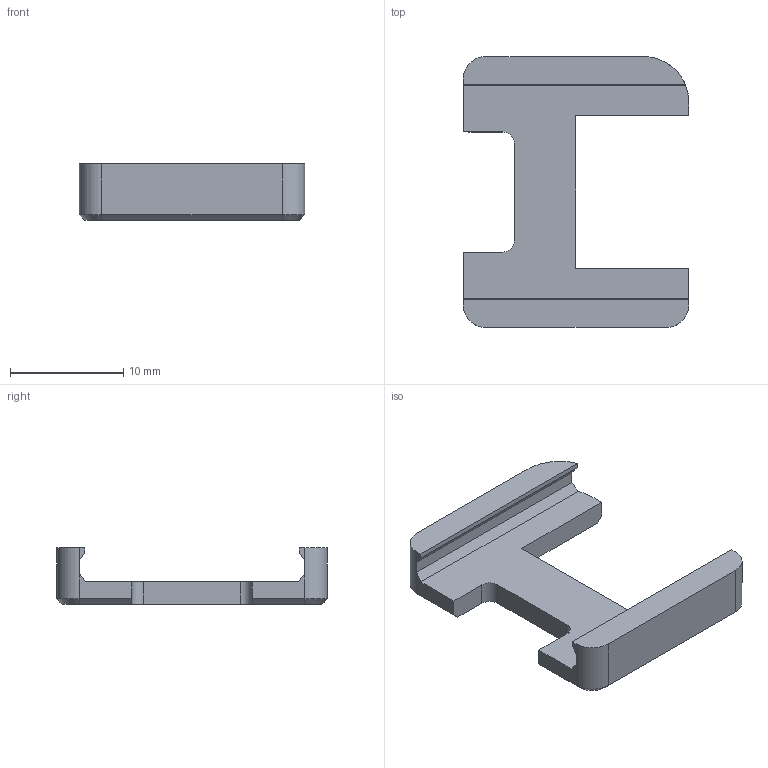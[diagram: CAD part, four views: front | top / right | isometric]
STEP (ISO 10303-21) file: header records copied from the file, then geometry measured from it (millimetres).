
FILE_DESCRIPTION(/* description */ ('STEP AP242','CAx-IF Rec.Pracs.---Representation and Presentation of Product Manufacturing Information (PMI)---4.0---2014-10-13','CAx-IF Rec.Pracs.---3D Tessellated Geometry---0.4---2014-09-14','2;1'),/* implementation_level */ '2;1');
FILE_NAME(/* name */ '687e6b17f344454910d47d3b',/* time_stamp */ '2025-07-21T16:30:15Z',/* author */ (''),/* organization */ (''),/* preprocessor_version */ 'ST-DEVELOPER v20',/* originating_system */ 'ONSHAPE BY PTC INC, 1.201',/* authorisation */ ' ');
FILE_SCHEMA (('AP242_MANAGED_MODEL_BASED_3D_ENGINEERING_MIM_LF { 1 0 10303 442 1 1 4 }'));
Length unit declared in the file: metre
Products named in the file (1): USB Latch Cover
Bounding box: 19.93 x 23.95 x 5 mm (x, y, z)
Volume: 816.6 mm3; surface area: 1044.9 mm2
Topology: 1 solids, 1 shells, 43 faces, 109 edges, 68 vertices
Faces by surface type: plane 33, cylinder 6, cone 4
Entity records: 1292 total; most frequent: CARTESIAN_POINT 221, ORIENTED_EDGE 218, DIRECTION 216, EDGE_CURVE 109, LINE 90, VECTOR 90, VERTEX_POINT 68, AXIS2_PLACEMENT_3D 63
